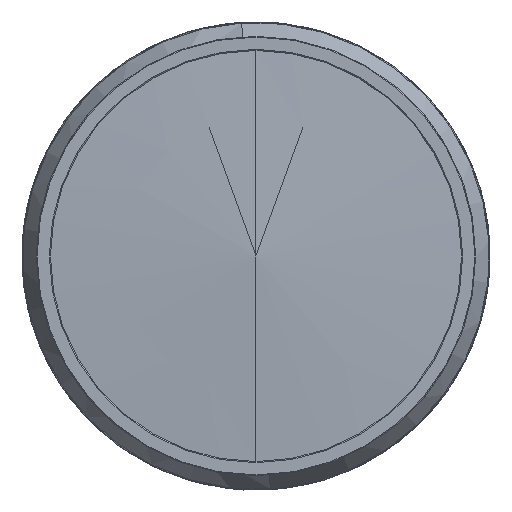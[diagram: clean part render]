
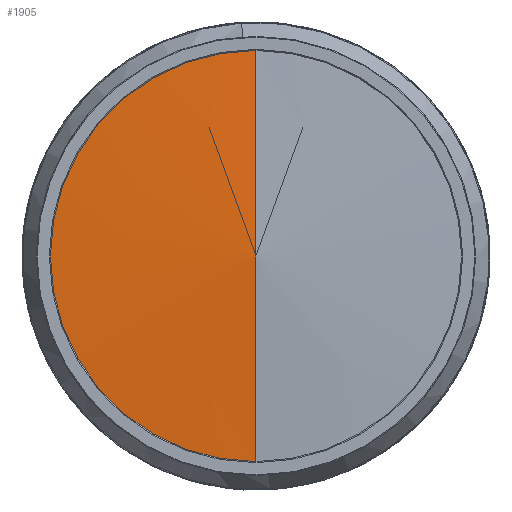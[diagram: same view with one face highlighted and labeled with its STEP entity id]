
A CAD part, left-side view. The second image highlights one B-rep face of the part: STEP entity #1905.
In plain terms, the highlighted conical face has half-angle 87.173 degrees and reference radius 57.964 mm.
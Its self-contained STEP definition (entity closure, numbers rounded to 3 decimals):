
#175 = VECTOR ( 'NONE', #2781, 1000. ) ;
#350 = DIRECTION ( 'NONE',  ( 0., 0., -1. ) ) ;
#495 = ORIENTED_EDGE ( 'NONE', *, *, #5034, .T. ) ;
#567 = EDGE_CURVE ( 'NONE', #4035, #2522, #3585, .T. ) ;
#629 = LINE ( 'NONE', #2801, #175 ) ;
#797 = DIRECTION ( 'NONE',  ( 1., 0., 0. ) ) ;
#1282 = CARTESIAN_POINT ( 'NONE',  ( 0., 0., 0. ) ) ;
#1672 = CARTESIAN_POINT ( 'NONE',  ( 2.863, 0., 0. ) ) ;
#1834 = CONICAL_SURFACE ( 'NONE', #4718, 57.964, 1.521 ) ;
#1905 = ADVANCED_FACE ( 'NONE', ( #2625 ), #1834, .T. ) ;
#2122 = DIRECTION ( 'NONE',  ( 0., 0., -1. ) ) ;
#2203 = CARTESIAN_POINT ( 'NONE',  ( 2.773, 0., 56.15 ) ) ;
#2238 = AXIS2_PLACEMENT_3D ( 'NONE', #3887, #2713, #350 ) ;
#2328 = DIRECTION ( 'NONE',  ( 0.049, 0., 0.999 ) ) ;
#2522 = VERTEX_POINT ( 'NONE', #2203 ) ;
#2625 = FACE_OUTER_BOUND ( 'NONE', #3744, .T. ) ;
#2713 = DIRECTION ( 'NONE',  ( 1., 0., 0. ) ) ;
#2781 = DIRECTION ( 'NONE',  ( 0.049, 0., -0.999 ) ) ;
#2801 = CARTESIAN_POINT ( 'NONE',  ( 2.863, 0., -57.964 ) ) ;
#2995 = VERTEX_POINT ( 'NONE', #1282 ) ;
#3060 = VECTOR ( 'NONE', #2328, 1000. ) ;
#3511 = CARTESIAN_POINT ( 'NONE',  ( 2.863, 0., 57.964 ) ) ;
#3549 = LINE ( 'NONE', #3511, #3060 ) ;
#3585 = CIRCLE ( 'NONE', #2238, 56.15 ) ;
#3744 = EDGE_LOOP ( 'NONE', ( #4025, #495, #4624 ) ) ;
#3877 = EDGE_CURVE ( 'NONE', #2995, #4035, #629, .T. ) ;
#3887 = CARTESIAN_POINT ( 'NONE',  ( 2.773, 0., 0. ) ) ;
#4025 = ORIENTED_EDGE ( 'NONE', *, *, #3877, .F. ) ;
#4035 = VERTEX_POINT ( 'NONE', #4326 ) ;
#4326 = CARTESIAN_POINT ( 'NONE',  ( 2.773, 0., -56.15 ) ) ;
#4624 = ORIENTED_EDGE ( 'NONE', *, *, #567, .F. ) ;
#4718 = AXIS2_PLACEMENT_3D ( 'NONE', #1672, #797, #2122 ) ;
#5034 = EDGE_CURVE ( 'NONE', #2995, #2522, #3549, .T. ) ;
